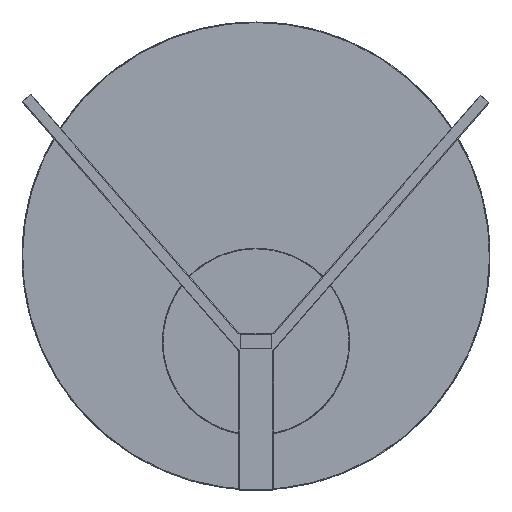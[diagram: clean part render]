
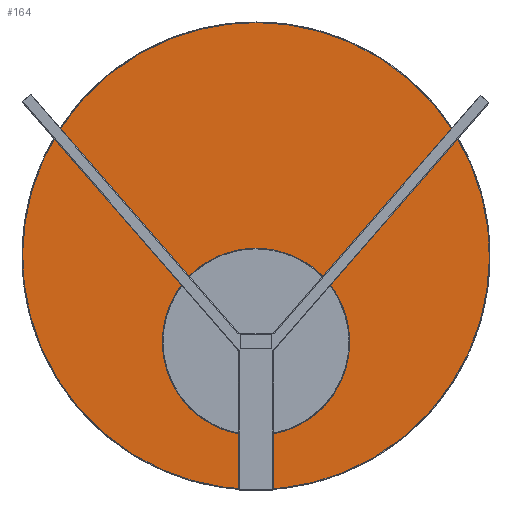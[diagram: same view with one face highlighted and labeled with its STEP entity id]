
A CAD part, front view. The second image highlights one B-rep face of the part: STEP entity #164.
In plain terms, the highlighted planar face has unit normal (0, -1, 0).
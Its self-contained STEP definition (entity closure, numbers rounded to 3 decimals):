
#164=ADVANCED_FACE('',(#284),#1631,.T.);
#284=FACE_OUTER_BOUND('',#405,.T.);
#405=EDGE_LOOP('',(#912,#913));
#912=ORIENTED_EDGE('',*,*,#1185,.F.);
#913=ORIENTED_EDGE('',*,*,#1191,.F.);
#1185=EDGE_CURVE('',#1603,#1604,#1453,.T.);
#1191=EDGE_CURVE('',#1604,#1603,#1457,.T.);
#1453=(
BOUNDED_CURVE()
B_SPLINE_CURVE(2,(#6292,#6293,#6294,#6295,#6296),.UNSPECIFIED.,.F.,.F.)
B_SPLINE_CURVE_WITH_KNOTS((3,2,3),(-626.748,-313.374,
0.),.UNSPECIFIED.)
CURVE()
GEOMETRIC_REPRESENTATION_ITEM()
RATIONAL_B_SPLINE_CURVE((1.,0.707,1.,0.707,1.))
REPRESENTATION_ITEM('')
);
#1457=(
BOUNDED_CURVE()
B_SPLINE_CURVE(2,(#6314,#6315,#6316,#6317,#6318),.UNSPECIFIED.,.F.,.F.)
B_SPLINE_CURVE_WITH_KNOTS((3,2,3),(-626.748,-313.374,
0.),.UNSPECIFIED.)
CURVE()
GEOMETRIC_REPRESENTATION_ITEM()
RATIONAL_B_SPLINE_CURVE((1.,0.707,1.,0.707,1.))
REPRESENTATION_ITEM('')
);
#1603=VERTEX_POINT('',#6270);
#1604=VERTEX_POINT('',#6271);
#1631=PLANE('',#1771);
#1771=AXIS2_PLACEMENT_3D('',#6083,#1802,$);
#1802=DIRECTION('',(0.,-1.,0.));
#6083=CARTESIAN_POINT('',(-239.401,-5.,239.401));
#6270=CARTESIAN_POINT('',(0.,-5.,199.5));
#6271=CARTESIAN_POINT('',(0.,-5.,-199.5));
#6292=CARTESIAN_POINT('',(0.,-5.,199.5));
#6293=CARTESIAN_POINT('',(199.5,-5.,199.5));
#6294=CARTESIAN_POINT('',(199.5,-5.,0.));
#6295=CARTESIAN_POINT('',(199.5,-5.,-199.5));
#6296=CARTESIAN_POINT('',(0.,-5.,-199.5));
#6314=CARTESIAN_POINT('',(0.,-5.,-199.5));
#6315=CARTESIAN_POINT('',(-199.5,-5.,-199.5));
#6316=CARTESIAN_POINT('',(-199.5,-5.,0.));
#6317=CARTESIAN_POINT('',(-199.5,-5.,199.5));
#6318=CARTESIAN_POINT('',(0.,-5.,199.5));
